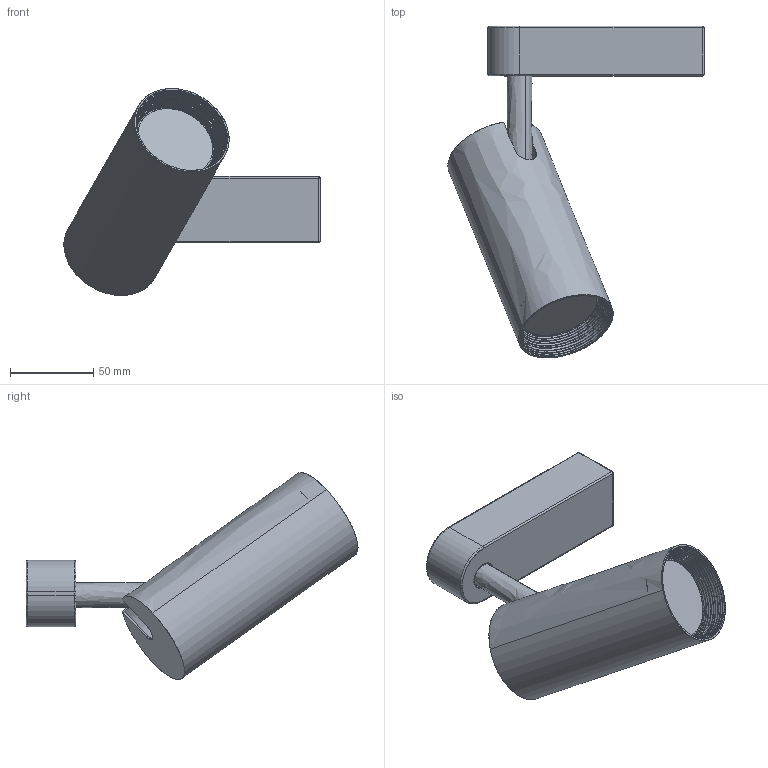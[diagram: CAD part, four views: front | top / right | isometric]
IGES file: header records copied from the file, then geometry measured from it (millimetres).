
Start section: SolidWorks IGES file using analytic representation for surfaces
Global section: file name: F:\GABRYSIA\MODELE 3D\PROFILE-IRIS-LED-20W-9004-9005-9006-9007-WWW\PROFILE-IRIS-LED-20W-9004-9005-9006-9007.IGS; native system: SolidWorks 2017; preprocessor: SolidWorks 2017; author: Togambi; date: 201202.105434; units: millimetre
Bounding box: 154.08 x 199.66 x 124.38 mm (x, y, z)
Surface area: 92213.8 mm2 (no closed solid volume)
Topology: 0 solids, 0 shells, 93 faces, 2381 edges, 2377 vertices
Faces by surface type: revolution 48, bspline 45
